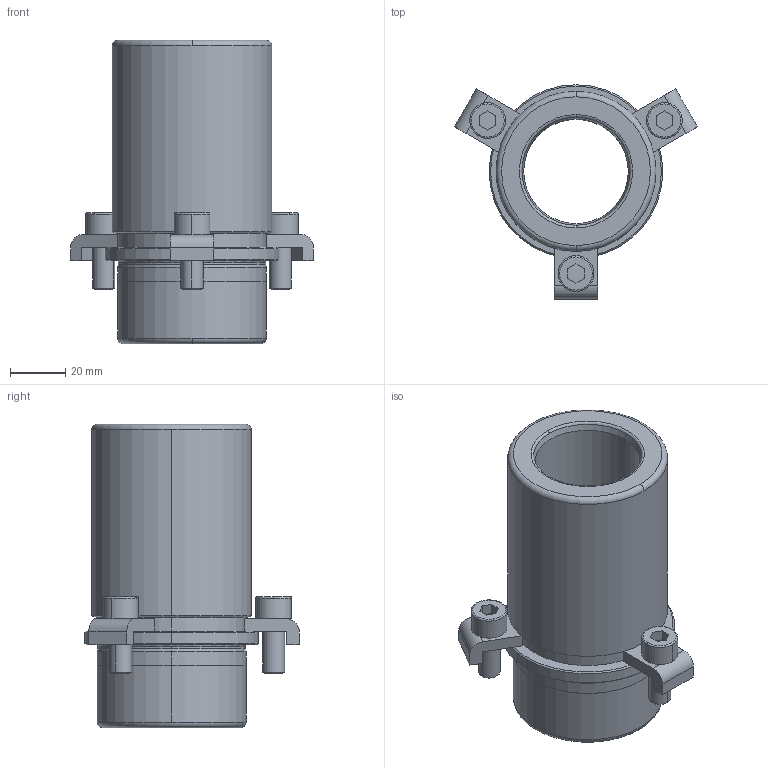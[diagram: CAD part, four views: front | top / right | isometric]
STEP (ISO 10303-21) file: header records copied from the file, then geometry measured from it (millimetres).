
FILE_DESCRIPTION((''),'2;1');
FILE_NAME('B40_030_080.stp','2009-01-05T16:28:04',(''),(''),'Mechanical Desktop 2009','Mechanical Desktop 2009',', , ');
FILE_SCHEMA(('CONFIG_CONTROL_DESIGN'));
Length unit declared in the file: millimetre
Products named in the file (2): Product; blmdl1
Assembly tree (1 placements, depth 2):
  Product
    blmdl1
Bounding box: 88.14 x 77.8 x 110 mm (x, y, z)
Volume: 165110.3 mm3; surface area: 43526.9 mm2
Topology: 7 solids, 7 shells, 147 faces, 362 edges, 238 vertices
Faces by surface type: plane 62, cylinder 41, cone 20, torus 14, bspline 10
Entity records: 4933 total; most frequent: CARTESIAN_POINT 1189, DIRECTION 824, ORIENTED_EDGE 724, EDGE_CURVE 362, AXIS2_PLACEMENT_3D 323, VERTEX_POINT 238, CIRCLE 184, VECTOR 178
